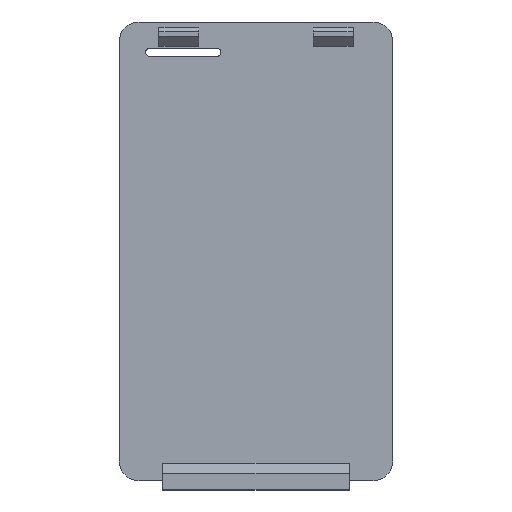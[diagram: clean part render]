
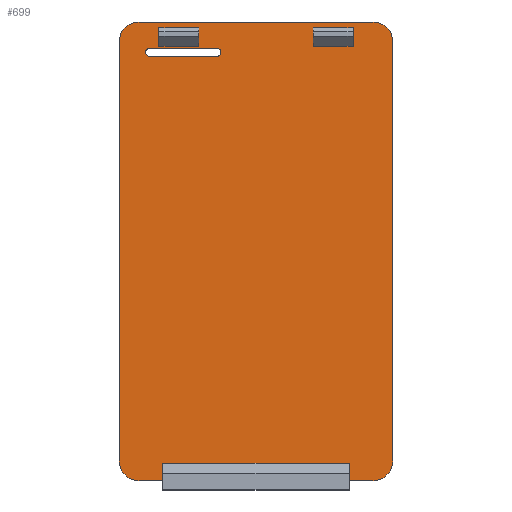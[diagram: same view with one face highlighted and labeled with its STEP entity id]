
A CAD part, top view. The second image highlights one B-rep face of the part: STEP entity #699.
In plain terms, the highlighted planar face has unit normal (0, 0, 1).
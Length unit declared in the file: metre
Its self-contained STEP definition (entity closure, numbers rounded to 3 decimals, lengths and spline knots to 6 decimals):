
#20=CIRCLE('',#752,0.005);
#21=CIRCLE('',#753,0.005);
#22=CIRCLE('',#754,0.005);
#23=CIRCLE('',#755,0.005);
#24=CIRCLE('',#756,0.001);
#25=CIRCLE('',#757,0.001);
#40=ORIENTED_EDGE('',*,*,#242,.T.);
#41=ORIENTED_EDGE('',*,*,#243,.T.);
#42=ORIENTED_EDGE('',*,*,#244,.T.);
#43=ORIENTED_EDGE('',*,*,#245,.F.);
#44=ORIENTED_EDGE('',*,*,#246,.F.);
#45=ORIENTED_EDGE('',*,*,#238,.T.);
#46=ORIENTED_EDGE('',*,*,#247,.T.);
#47=ORIENTED_EDGE('',*,*,#248,.T.);
#48=ORIENTED_EDGE('',*,*,#249,.T.);
#49=ORIENTED_EDGE('',*,*,#250,.F.);
#50=ORIENTED_EDGE('',*,*,#251,.F.);
#51=ORIENTED_EDGE('',*,*,#252,.T.);
#52=ORIENTED_EDGE('',*,*,#253,.T.);
#53=ORIENTED_EDGE('',*,*,#254,.T.);
#54=ORIENTED_EDGE('',*,*,#255,.T.);
#55=ORIENTED_EDGE('',*,*,#256,.T.);
#56=ORIENTED_EDGE('',*,*,#257,.T.);
#57=ORIENTED_EDGE('',*,*,#258,.T.);
#58=ORIENTED_EDGE('',*,*,#259,.T.);
#59=ORIENTED_EDGE('',*,*,#260,.T.);
#60=ORIENTED_EDGE('',*,*,#261,.T.);
#61=ORIENTED_EDGE('',*,*,#262,.T.);
#62=ORIENTED_EDGE('',*,*,#263,.T.);
#63=ORIENTED_EDGE('',*,*,#264,.T.);
#238=EDGE_CURVE('',#339,#340,#407,.T.);
#242=EDGE_CURVE('',#343,#344,#411,.T.);
#243=EDGE_CURVE('',#344,#345,#412,.T.);
#244=EDGE_CURVE('',#345,#346,#413,.T.);
#245=EDGE_CURVE('',#343,#346,#414,.T.);
#246=EDGE_CURVE('',#339,#347,#415,.T.);
#247=EDGE_CURVE('',#340,#348,#416,.T.);
#248=EDGE_CURVE('',#348,#347,#417,.T.);
#249=EDGE_CURVE('',#349,#350,#418,.T.);
#250=EDGE_CURVE('',#351,#350,#419,.T.);
#251=EDGE_CURVE('',#352,#351,#420,.T.);
#252=EDGE_CURVE('',#352,#349,#421,.T.);
#253=EDGE_CURVE('',#353,#354,#422,.T.);
#254=EDGE_CURVE('',#354,#355,#20,.F.);
#255=EDGE_CURVE('',#355,#356,#423,.T.);
#256=EDGE_CURVE('',#356,#357,#21,.F.);
#257=EDGE_CURVE('',#357,#358,#424,.T.);
#258=EDGE_CURVE('',#358,#359,#22,.F.);
#259=EDGE_CURVE('',#359,#360,#425,.T.);
#260=EDGE_CURVE('',#360,#353,#23,.F.);
#261=EDGE_CURVE('',#361,#362,#24,.T.);
#262=EDGE_CURVE('',#362,#363,#426,.T.);
#263=EDGE_CURVE('',#363,#364,#25,.T.);
#264=EDGE_CURVE('',#364,#361,#427,.T.);
#339=VERTEX_POINT('',#1005);
#340=VERTEX_POINT('',#1006);
#343=VERTEX_POINT('',#1014);
#344=VERTEX_POINT('',#1015);
#345=VERTEX_POINT('',#1017);
#346=VERTEX_POINT('',#1019);
#347=VERTEX_POINT('',#1022);
#348=VERTEX_POINT('',#1024);
#349=VERTEX_POINT('',#1027);
#350=VERTEX_POINT('',#1028);
#351=VERTEX_POINT('',#1030);
#352=VERTEX_POINT('',#1032);
#353=VERTEX_POINT('',#1035);
#354=VERTEX_POINT('',#1036);
#355=VERTEX_POINT('',#1038);
#356=VERTEX_POINT('',#1040);
#357=VERTEX_POINT('',#1042);
#358=VERTEX_POINT('',#1044);
#359=VERTEX_POINT('',#1046);
#360=VERTEX_POINT('',#1048);
#361=VERTEX_POINT('',#1051);
#362=VERTEX_POINT('',#1052);
#363=VERTEX_POINT('',#1054);
#364=VERTEX_POINT('',#1056);
#407=LINE('',#1004,#492);
#411=LINE('',#1013,#496);
#412=LINE('',#1016,#497);
#413=LINE('',#1018,#498);
#414=LINE('',#1020,#499);
#415=LINE('',#1021,#500);
#416=LINE('',#1023,#501);
#417=LINE('',#1025,#502);
#418=LINE('',#1026,#503);
#419=LINE('',#1029,#504);
#420=LINE('',#1031,#505);
#421=LINE('',#1033,#506);
#422=LINE('',#1034,#507);
#423=LINE('',#1039,#508);
#424=LINE('',#1043,#509);
#425=LINE('',#1047,#510);
#426=LINE('',#1053,#511);
#427=LINE('',#1057,#512);
#492=VECTOR('',#809,1.);
#496=VECTOR('',#815,1.);
#497=VECTOR('',#816,1.);
#498=VECTOR('',#817,1.);
#499=VECTOR('',#818,1.);
#500=VECTOR('',#819,1.);
#501=VECTOR('',#820,1.);
#502=VECTOR('',#821,1.);
#503=VECTOR('',#822,1.);
#504=VECTOR('',#823,1.);
#505=VECTOR('',#824,1.);
#506=VECTOR('',#825,1.);
#507=VECTOR('',#826,1.);
#508=VECTOR('',#829,1.);
#509=VECTOR('',#832,1.);
#510=VECTOR('',#835,1.);
#511=VECTOR('',#840,1.);
#512=VECTOR('',#843,1.);
#578=EDGE_LOOP('',(#40,#41,#42,#43));
#579=EDGE_LOOP('',(#44,#45,#46,#47));
#580=EDGE_LOOP('',(#48,#49,#50,#51));
#581=EDGE_LOOP('',(#52,#53,#54,#55,#56,#57,#58,#59));
#582=EDGE_LOOP('',(#60,#61,#62,#63));
#623=FACE_BOUND('',#578,.T.);
#624=FACE_BOUND('',#579,.T.);
#625=FACE_BOUND('',#580,.T.);
#626=FACE_BOUND('',#581,.T.);
#627=FACE_BOUND('',#582,.T.);
#668=PLANE('',#751);
#699=ADVANCED_FACE('',(#623,#624,#625,#626,#627),#668,.F.);
#751=AXIS2_PLACEMENT_3D('',#1012,#813,#814);
#752=AXIS2_PLACEMENT_3D('',#1037,#827,#828);
#753=AXIS2_PLACEMENT_3D('',#1041,#830,#831);
#754=AXIS2_PLACEMENT_3D('',#1045,#833,#834);
#755=AXIS2_PLACEMENT_3D('',#1049,#836,#837);
#756=AXIS2_PLACEMENT_3D('',#1050,#838,#839);
#757=AXIS2_PLACEMENT_3D('',#1055,#841,#842);
#809=DIRECTION('',(-1.,0.,0.));
#813=DIRECTION('',(0.,0.,-1.));
#814=DIRECTION('',(1.,0.,0.));
#815=DIRECTION('',(-1.,0.,0.));
#816=DIRECTION('',(0.,1.,0.));
#817=DIRECTION('',(1.,0.,0.));
#818=DIRECTION('',(0.,1.,0.));
#819=DIRECTION('',(0.,1.,0.));
#820=DIRECTION('',(0.,1.,0.));
#821=DIRECTION('',(1.,0.,0.));
#822=DIRECTION('',(0.,1.,0.));
#823=DIRECTION('',(-1.,0.,0.));
#824=DIRECTION('',(0.,1.,0.));
#825=DIRECTION('',(-1.,0.,0.));
#826=DIRECTION('',(1.,0.,0.));
#827=DIRECTION('',(0.,0.,-1.));
#828=DIRECTION('',(-1.,0.,0.));
#829=DIRECTION('',(0.,1.,0.));
#830=DIRECTION('',(0.,0.,-1.));
#831=DIRECTION('',(-1.,0.,0.));
#832=DIRECTION('',(-1.,0.,0.));
#833=DIRECTION('',(0.,0.,-1.));
#834=DIRECTION('',(-1.,0.,0.));
#835=DIRECTION('',(0.,-1.,0.));
#836=DIRECTION('',(0.,0.,-1.));
#837=DIRECTION('',(-1.,0.,0.));
#838=DIRECTION('',(0.,0.,-1.));
#839=DIRECTION('',(-1.,0.,0.));
#840=DIRECTION('',(1.,0.,0.));
#841=DIRECTION('',(0.,0.,-1.));
#842=DIRECTION('',(-1.,0.,0.));
#843=DIRECTION('',(-1.,0.,0.));
#1004=CARTESIAN_POINT('',(-0.1915,-0.06895,-0.01875));
#1005=CARTESIAN_POINT('',(-0.1695,-0.06895,-0.01875));
#1006=CARTESIAN_POINT('',(-0.2165,-0.06895,-0.01875));
#1012=CARTESIAN_POINT('',(-0.1915,-0.011225,-0.01875));
#1013=CARTESIAN_POINT('',(-0.2175,0.0405,-0.01875));
#1014=CARTESIAN_POINT('',(-0.2075,0.0405,-0.01875));
#1015=CARTESIAN_POINT('',(-0.2175,0.0405,-0.01875));
#1016=CARTESIAN_POINT('',(-0.2175,0.044,-0.01875));
#1017=CARTESIAN_POINT('',(-0.2175,0.04515,-0.01875));
#1018=CARTESIAN_POINT('',(-0.2125,0.04515,-0.01875));
#1019=CARTESIAN_POINT('',(-0.2075,0.04515,-0.01875));
#1020=CARTESIAN_POINT('',(-0.2075,0.044,-0.01875));
#1021=CARTESIAN_POINT('',(-0.1695,-0.06795,-0.01875));
#1022=CARTESIAN_POINT('',(-0.1695,-0.06475,-0.01875));
#1023=CARTESIAN_POINT('',(-0.2165,-0.06795,-0.01875));
#1024=CARTESIAN_POINT('',(-0.2165,-0.06475,-0.01875));
#1025=CARTESIAN_POINT('',(-0.1695,-0.06475,-0.01875));
#1026=CARTESIAN_POINT('',(-0.1785,0.044,-0.01875));
#1027=CARTESIAN_POINT('',(-0.1785,0.0405,-0.01875));
#1028=CARTESIAN_POINT('',(-0.1785,0.04515,-0.01875));
#1029=CARTESIAN_POINT('',(-0.1735,0.04515,-0.01875));
#1030=CARTESIAN_POINT('',(-0.1685,0.04515,-0.01875));
#1031=CARTESIAN_POINT('',(-0.1685,0.044,-0.01875));
#1032=CARTESIAN_POINT('',(-0.1685,0.0405,-0.01875));
#1033=CARTESIAN_POINT('',(-0.1915,0.0405,-0.01875));
#1034=CARTESIAN_POINT('',(-0.193,-0.0691,-0.01875));
#1035=CARTESIAN_POINT('',(-0.2225,-0.0691,-0.01875));
#1036=CARTESIAN_POINT('',(-0.1635,-0.0691,-0.01875));
#1037=CARTESIAN_POINT('',(-0.1635,-0.0641,-0.01875));
#1038=CARTESIAN_POINT('',(-0.1585,-0.0641,-0.01875));
#1039=CARTESIAN_POINT('',(-0.1585,-0.011225,-0.01875));
#1040=CARTESIAN_POINT('',(-0.1585,0.04165,-0.01875));
#1041=CARTESIAN_POINT('',(-0.1635,0.04165,-0.01875));
#1042=CARTESIAN_POINT('',(-0.1635,0.04665,-0.01875));
#1043=CARTESIAN_POINT('',(-0.2075,0.04665,-0.01875));
#1044=CARTESIAN_POINT('',(-0.2225,0.04665,-0.01875));
#1045=CARTESIAN_POINT('',(-0.2225,0.04165,-0.01875));
#1046=CARTESIAN_POINT('',(-0.2275,0.04165,-0.01875));
#1047=CARTESIAN_POINT('',(-0.2275,-0.011225,-0.01875));
#1048=CARTESIAN_POINT('',(-0.2275,-0.0641,-0.01875));
#1049=CARTESIAN_POINT('',(-0.2225,-0.0641,-0.01875));
#1050=CARTESIAN_POINT('',(-0.21985,0.039,-0.01875));
#1051=CARTESIAN_POINT('',(-0.21985,0.038,-0.01875));
#1052=CARTESIAN_POINT('',(-0.21985,0.04,-0.01875));
#1053=CARTESIAN_POINT('',(-0.21135,0.04,-0.01875));
#1054=CARTESIAN_POINT('',(-0.20285,0.04,-0.01875));
#1055=CARTESIAN_POINT('',(-0.20285,0.039,-0.01875));
#1056=CARTESIAN_POINT('',(-0.20285,0.038,-0.01875));
#1057=CARTESIAN_POINT('',(-0.21135,0.038,-0.01875));
